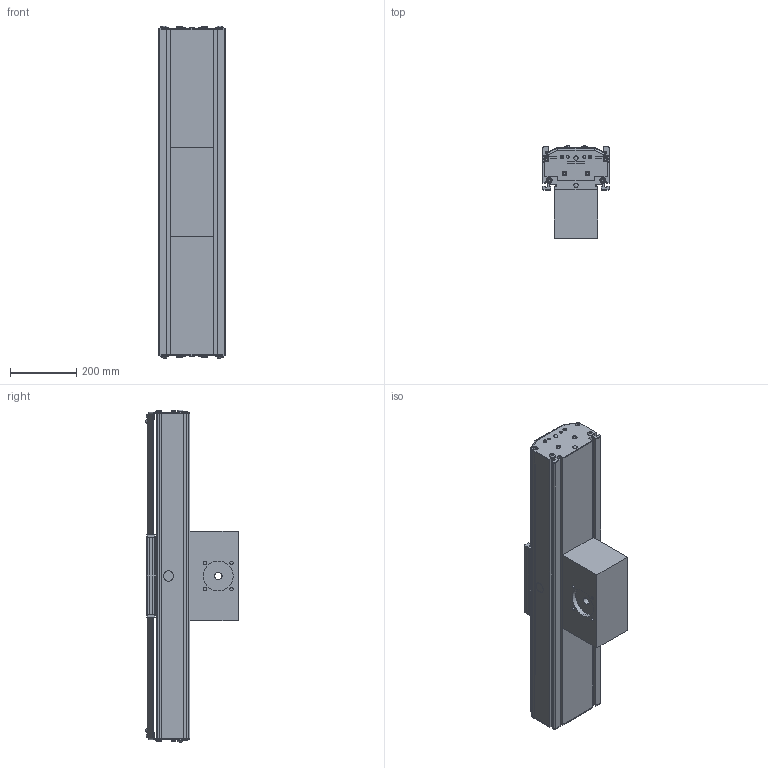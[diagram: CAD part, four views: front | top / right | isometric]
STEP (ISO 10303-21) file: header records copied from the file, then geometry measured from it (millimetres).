
FILE_DESCRIPTION (( 'STEP AP214' ), '1' );
FILE_NAME ('DSZS200P.STEP', '2022-07-25T09:11:11', ( '' ), ( '' ), 'SwSTEP 2.0', 'SolidWorks 2020', '' );
FILE_SCHEMA (( 'AUTOMOTIVE_DESIGN' ));
Length unit declared in the file: millimetre
Products named in the file (5): carriage^DSZS200P_carriage version 0; timing belt reverse unit^DSZS200P_coupling claw pos.2; end plate^DSZS200P_Standard<Wie bearbeitet>; DSZS200P; profile^DSZS200P_standard
Assembly tree (5 placements, depth 2):
  DSZS200P
    profile^DSZS200P_standard
    carriage^DSZS200P_carriage version 0
    timing belt reverse unit^DSZS200P_coupling claw pos.2
    end plate^DSZS200P_Standard<Wie bearbeitet>  x2
Bounding box: 200 x 278.4 x 1002 mm (x, y, z)
Volume: 14138910.4 mm3; surface area: 2104064.8 mm2
Topology: 21 solids, 21 shells, 797 faces, 2036 edges, 1336 vertices
Faces by surface type: plane 526, cylinder 197, bspline 40, sphere 24, cone 10
Entity records: 23124 total; most frequent: CARTESIAN_POINT 7267, ORIENTED_EDGE 3080, DIRECTION 2842, EDGE_CURVE 1540, LINE 1092, VECTOR 1092, VERTEX_POINT 1016, AXIS2_PLACEMENT_3D 875
